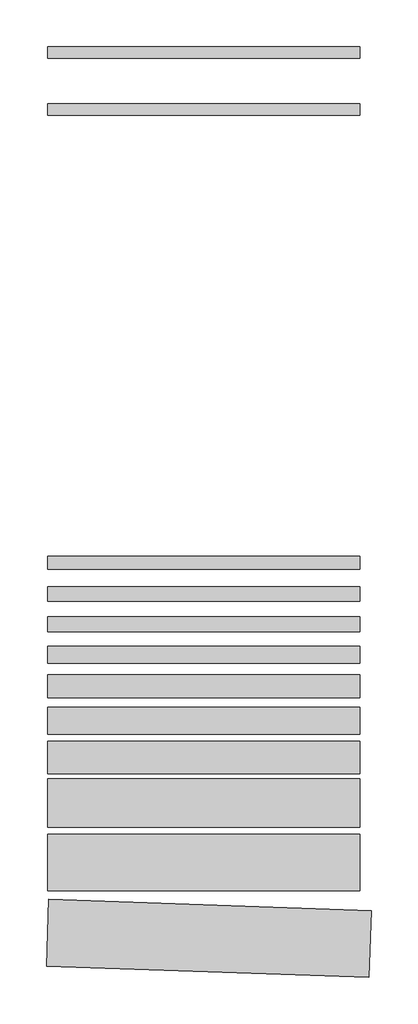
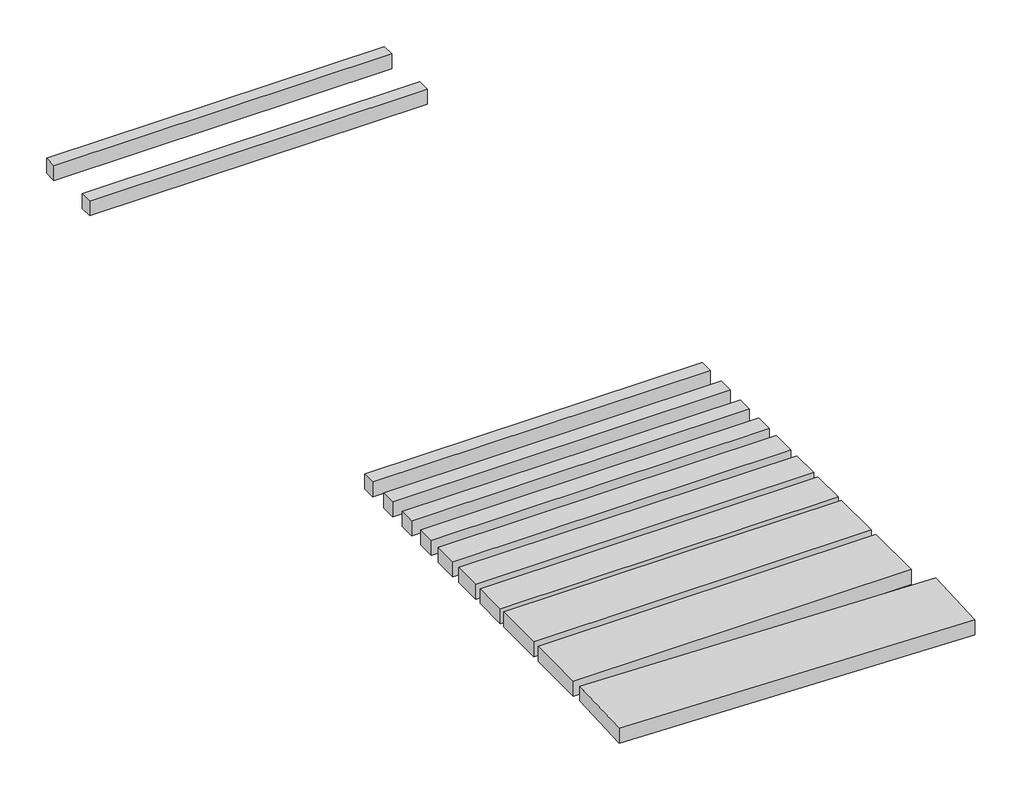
# One storey: 12 duct segments.
"""IFC4 building model written with IfcOpenShell, lengths in millimetres."""

import ifcopenshell
import ifcopenshell.guid

model = None  # the IFC model being written
_history = None  # IfcOwnerHistory: only IFC2X3 demands one
_inside = {}  # id of a spatial element -> (the spatial element, [elements in it])
_under = {}  # id of a project, library or spatial element -> (it, [spatial elements below it])
_declared = {}  # id of a project -> (the project, [libraries it declares])
_typed = {}  # id of a type object -> (the type object, [elements of that type])
_made_of = {}  # id of a material, layer set ... -> (it, [elements and type objects made of it])


def new_model(schema):
    """Start an empty IFC model of exactly this schema.

    Asked for "IFC4X3", IfcOpenShell would pick the latest addendum, in which some entities
    have other attributes; the version numbers below select the first issue.
    IFC2X3 requires an IfcOwnerHistory on every rooted entity: one is made here for all.
    """
    global model, _history
    if schema == "IFC4X3":
        model = ifcopenshell.file(schema_version=(4, 3, 0, 0))
    else:
        model = ifcopenshell.file(schema=schema)
    _inside.clear()
    _under.clear()
    _declared.clear()
    _typed.clear()
    _made_of.clear()
    _history = None
    if model.schema == "IFC2X3":
        org = make("IfcOrganization", Name="unknown")
        user = make(
            "IfcPersonAndOrganization",
            ThePerson=make("IfcPerson", FamilyName="unknown"),
            TheOrganization=org,
        )
        app = make(
            "IfcApplication",
            ApplicationDeveloper=org,
            Version="unknown",
            ApplicationFullName="unknown",
            ApplicationIdentifier="unknown",
        )
        _history = make(
            "IfcOwnerHistory",
            OwningUser=user,
            OwningApplication=app,
            ChangeAction="ADDED",
            CreationDate=0,
        )
    return model


def make(cls, **values):
    """One entity of the class cls with the attributes given. An attribute that is None is left unset."""
    return model.create_entity(
        cls, **{name: value for name, value in values.items() if value is not None}
    )


def rooted(cls, **values):
    """An entity with a GlobalId (a new one), such as an element, a storey or a relation."""
    return make(cls, GlobalId=ifcopenshell.guid.new(), OwnerHistory=_history, **values)


def si_unit(unit_type, name, prefix=None):
    """IfcSIUnit, for example si_unit("LENGTHUNIT", "METRE", prefix="MILLI")."""
    return make("IfcSIUnit", UnitType=unit_type, Prefix=prefix, Name=name)


def assignment(units):
    """IfcUnitAssignment: the units of a project."""
    return None if units is None else make("IfcUnitAssignment", Units=units)


def point(xyz):
    """IfcCartesianPoint."""
    return None if xyz is None else make("IfcCartesianPoint", Coordinates=xyz)


def direction(xyz):
    """IfcDirection."""
    return None if xyz is None else make("IfcDirection", DirectionRatios=xyz)


def frame(location, z_axis=None, x_axis=None):
    """IfcAxis2Placement3D, a coordinate frame: its origin and axes. An axis left out is left unset."""
    return make(
        "IfcAxis2Placement3D",
        Location=point(location),
        Axis=direction(z_axis),
        RefDirection=direction(x_axis),
    )


def origin():
    """The frame at (0, 0, 0) with its axes left unset."""
    return frame((0.0, 0.0, 0.0))


def place(relative_to, where):
    """IfcLocalPlacement: puts the frame where relative to a parent placement (None: the world)."""
    return make(
        "IfcLocalPlacement", PlacementRelTo=relative_to, RelativePlacement=where
    )


def context(
    kind, dimensions, precision=None, world=None, true_north=None, identifier=None
):
    """IfcGeometricRepresentationContext, for example the 3D "Model" context."""
    return make(
        "IfcGeometricRepresentationContext",
        ContextIdentifier=identifier,
        ContextType=kind,
        CoordinateSpaceDimension=dimensions,
        Precision=precision,
        WorldCoordinateSystem=world,
        TrueNorth=true_north,
    )


def project(units=None, contexts=None):
    """IfcProject with its units and contexts."""
    return rooted(
        "IfcProject",
        Name="project",
        RepresentationContexts=contexts,
        UnitsInContext=assignment(units),
    )


def spatial(cls, under=None, at=None, **own):
    """A site, building, storey or space (cls), placed at a placement, below another one or the project."""
    s = rooted(cls, ObjectPlacement=at, **own)
    if under is not None:
        _under.setdefault(under.id(), (under, []))[1].append(s)
    return s


def polyline(points):
    """IfcPolyline through the points."""
    return make("IfcPolyline", Points=[point(p) for p in points])


def outline(outer, holes=None, kind="AREA"):
    """IfcArbitraryClosedProfileDef: a profile drawn as a closed curve; with holes, ...WithVoids."""
    if holes is None:
        return make("IfcArbitraryClosedProfileDef", ProfileType=kind, OuterCurve=outer)
    return make(
        "IfcArbitraryProfileDefWithVoids",
        ProfileType=kind,
        OuterCurve=outer,
        InnerCurves=holes,
    )


def extrude(swept, where, along, depth):
    """IfcExtrudedAreaSolid: the profile swept, set in the frame where, extruded along a direction by depth."""
    return make(
        "IfcExtrudedAreaSolid",
        SweptArea=swept,
        Position=where,
        ExtrudedDirection=direction(along),
        Depth=depth,
    )


def shape(context_of_items, identifier, shape_type, items):
    """IfcShapeRepresentation: the items that make up one representation, for example the "Body"."""
    return make(
        "IfcShapeRepresentation",
        ContextOfItems=context_of_items,
        RepresentationIdentifier=identifier,
        RepresentationType=shape_type,
        Items=items,
    )


def made_of(thing, what):
    """Note that an element or type object is made of a material, layer set ...; save() writes the relation."""
    if what is not None:
        _made_of.setdefault(what.id(), (what, []))[1].append(thing)
    return thing


def element(
    cls,
    number,
    at=None,
    inside=None,
    cuts=None,
    type_object=None,
    material=None,
    context=None,
    identifier="Body",
    shape_type=None,
    held_by="IfcProductDefinitionShape",
    body=None,
    shapes=None,
    **own,
):
    """One element of the class cls, such as IfcWall. Its Tag is "e" and its number.

    at: its placement. inside: the storey or other place that contains it. cuts: it is an
    opening in that element (IfcRelVoidsElement). A single representation is given by context,
    identifier, shape_type and body (its items); several are given by shapes. held_by: the class
    of the entity that holds the representations. save() writes the other relations.
    """
    e = rooted(cls, Tag="e%d" % number, ObjectPlacement=at, **own)
    if body is not None:
        shapes = [shape(context, identifier, shape_type, body)]
    if shapes is not None:
        e.Representation = make(held_by, Representations=shapes)
    if inside is not None:
        _inside.setdefault(inside.id(), (inside, []))[1].append(e)
    if cuts is not None:
        rooted(
            "IfcRelVoidsElement", RelatingBuildingElement=cuts, RelatedOpeningElement=e
        )
    if type_object is not None:
        _typed.setdefault(type_object.id(), (type_object, []))[1].append(e)
    return made_of(e, material)


def aggregate(whole, parts):
    """IfcRelAggregates: a whole, such as a stair, and the parts it consists of."""
    return rooted("IfcRelAggregates", RelatingObject=whole, RelatedObjects=parts)


def save(model, path):
    """Write the relations noted so far, then the file.

    IfcRelAggregates (storeys below a building ...), IfcRelContainedInSpatialStructure (elements
    in a storey), IfcRelDefinesByType, IfcRelAssociatesMaterial and IfcRelDeclares: one each for
    every whole, place, type object, material and project.
    """
    for whole, parts in _under.values():
        aggregate(whole, parts)
    for where, things in _inside.values():
        rooted(
            "IfcRelContainedInSpatialStructure",
            RelatedElements=things,
            RelatingStructure=where,
        )
    for kind, things in _typed.values():
        rooted("IfcRelDefinesByType", RelatedObjects=things, RelatingType=kind)
    for what, things in _made_of.values():
        rooted("IfcRelAssociatesMaterial", RelatedObjects=things, RelatingMaterial=what)
    for by, libraries in _declared.values():
        rooted("IfcRelDeclares", RelatingContext=by, RelatedDefinitions=libraries)
    model.write(path)


model = new_model("IFC4")

# Units and contexts
model_context = context("Model", 3, world=origin())
ifc_project = project(units=[si_unit("LENGTHUNIT", "METRE", prefix="MILLI")], contexts=[model_context])

# Site, building, storey
site = spatial("IfcSite", under=ifc_project)
building = spatial("IfcBuilding", under=site)
storey = spatial("IfcBuildingStorey", under=building, Name="Уровень 1", Elevation=0.0)

# Duct segments
placement = place(None, origin())
element("IfcDuctSegment", 1, ObjectType="IEK_SH_SP_TR_L3", at=placement, inside=storey, context=model_context, shape_type="SweptSolid", body=[
    extrude(outline(polyline([(0.0, 1116.5), (0.0, 1228.5), (3000.0, 1228.5), (3000.0, 1116.5), (0.0, 1116.5)])), frame((0.0, 0.0, -70.0), z_axis=(0.0, 0.0, 1.0), x_axis=(1.0, 0.0, 0.0)), (0.0, 0.0, 1.0), 140.0),
])
element("IfcDuctSegment", 2, ObjectType="IEK_SH_SP_RS_L3", at=placement, inside=storey, context=model_context, shape_type="SweptSolid", body=[
    extrude(outline(polyline([(0.0, 1665.5), (0.0, 1777.5), (3000.0, 1777.5), (3000.0, 1665.5), (0.0, 1665.5)])), frame((0.0, 0.0, -70.0), z_axis=(0.0, 0.0, 1.0), x_axis=(1.0, 0.0, 0.0)), (0.0, 0.0, 1.0), 140.0),
])
element("IfcDuctSegment", 3, ObjectType="IEK_SH_SP_RS_L3", at=placement, inside=storey, context=model_context, shape_type="SweptSolid", body=[
    extrude(outline(polyline([(0.0, -3239.5), (0.0, -3117.5), (3000.0, -3117.5), (3000.0, -3239.5), (0.0, -3239.5)])), frame((0.0, 0.0, -70.0), z_axis=(0.0, 0.0, 1.0), x_axis=(1.0, 0.0, 0.0)), (0.0, 0.0, 1.0), 140.0),
])
element("IfcDuctSegment", 4, ObjectType="IEK_SH_SP_RS_L3", at=placement, inside=storey, context=model_context, shape_type="SweptSolid", body=[
    extrude(outline(polyline([(0.0, -3548.5), (0.0, -3408.5), (3000.0, -3408.5), (3000.0, -3548.5), (0.0, -3548.5)])), frame((0.0, 0.0, -70.0), z_axis=(0.0, 0.0, 1.0), x_axis=(1.0, 0.0, 0.0)), (0.0, 0.0, 1.0), 140.0),
])
element("IfcDuctSegment", 5, ObjectType="IEK_SH_SP_RS_L3", at=placement, inside=storey, context=model_context, shape_type="SweptSolid", body=[
    extrude(outline(polyline([(0.0, -3840.5), (0.0, -3698.5), (3000.0, -3698.5), (3000.0, -3840.5), (0.0, -3840.5)])), frame((0.0, 0.0, -70.0), z_axis=(0.0, 0.0, 1.0), x_axis=(1.0, 0.0, 0.0)), (0.0, 0.0, 1.0), 140.0),
])
element("IfcDuctSegment", 6, ObjectType="IEK_SH_SP_RS_L3", at=placement, inside=storey, context=model_context, shape_type="SweptSolid", body=[
    extrude(outline(polyline([(0.0, -4142.5), (0.0, -3980.5), (3000.0, -3980.5), (3000.0, -4142.5), (0.0, -4142.5)])), frame((0.0, 0.0, -70.0), z_axis=(0.0, 0.0, 1.0), x_axis=(1.0, 0.0, 0.0)), (0.0, 0.0, 1.0), 140.0),
])
element("IfcDuctSegment", 7, ObjectType="IEK_SH_SP_RS_L3", at=placement, inside=storey, context=model_context, shape_type="SweptSolid", body=[
    extrude(outline(polyline([(0.0, -4474.5), (0.0, -4252.5), (3000.0, -4252.5), (3000.0, -4474.5), (0.0, -4474.5)])), frame((0.0, 0.0, -70.0), z_axis=(0.0, 0.0, 1.0), x_axis=(1.0, 0.0, 0.0)), (0.0, 0.0, 1.0), 140.0),
])
element("IfcDuctSegment", 8, ObjectType="IEK_SH_SP_RS_L3", at=placement, inside=storey, context=model_context, shape_type="SweptSolid", body=[
    extrude(outline(polyline([(0.0, -4826.5), (0.0, -4564.5), (3000.0, -4564.5), (3000.0, -4826.5), (0.0, -4826.5)])), frame((0.0, 0.0, -70.0), z_axis=(0.0, 0.0, 1.0), x_axis=(1.0, 0.0, 0.0)), (0.0, 0.0, 1.0), 140.0),
])
element("IfcDuctSegment", 9, ObjectType="IEK_SH_SP_RS_L3", at=placement, inside=storey, context=model_context, shape_type="SweptSolid", body=[
    extrude(outline(polyline([(0.0, -5203.5), (0.0, -4891.5), (3000.0, -4891.5), (3000.0, -5203.5), (0.0, -5203.5)])), frame((0.0, 0.0, -70.0), z_axis=(0.0, 0.0, 1.0), x_axis=(1.0, 0.0, 0.0)), (0.0, 0.0, 1.0), 140.0),
])
element("IfcDuctSegment", 10, ObjectType="IEK_SH_SP_RS_L3", at=placement, inside=storey, context=model_context, shape_type="SweptSolid", body=[
    extrude(outline(polyline([(0.0, -5716.0), (0.0, -5253.0), (3000.0, -5253.0), (3000.0, -5716.0), (0.0, -5716.0)])), frame((0.0, 0.0, -70.0), z_axis=(0.0, 0.0, 1.0), x_axis=(1.0, 0.0, 0.0)), (0.0, 0.0, 1.0), 140.0),
])
element("IfcDuctSegment", 11, ObjectType="IEK_SH_SP_RS_L3", at=placement, inside=storey, context=model_context, shape_type="SweptSolid", body=[
    extrude(outline(polyline([(0.0, -6328.5), (0.0, -5785.5), (3000.0, -5785.5), (3000.0, -6328.5), (0.0, -6328.5)])), frame((0.0, 0.0, -70.0), z_axis=(0.0, 0.0, 1.0), x_axis=(1.0, 0.0, 0.0)), (0.0, 0.0, 1.0), 140.0),
])
element("IfcDuctSegment", 12, ObjectType="IEK_SH_SP_RS_L3", at=placement, inside=storey, context=model_context, shape_type="SweptSolid", body=[
    extrude(outline(polyline([(-11.2201882, -7050.8041509), (11.2201882, -6408.1958491), (3109.3317519, -6516.3842889), (3086.8913756, -7158.9925907), (-11.2201882, -7050.8041509)])), frame((0.0, 0.0, -70.0), z_axis=(0.0, 0.0, 1.0), x_axis=(1.0, 0.0, 0.0)), (0.0, 0.0, 1.0), 140.0),
])

save(model, "model.ifc")
